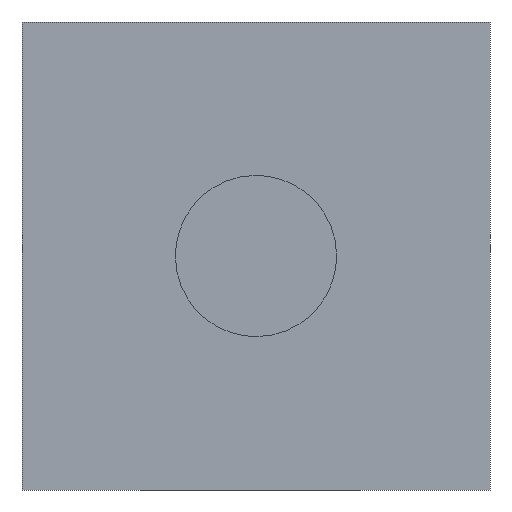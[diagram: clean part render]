
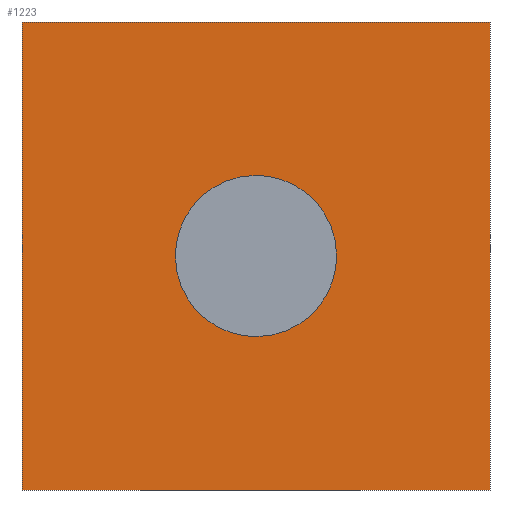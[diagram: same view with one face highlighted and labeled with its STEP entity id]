
A CAD part, left-side view. The second image highlights one B-rep face of the part: STEP entity #1223.
In plain terms, the highlighted planar face has unit normal (-1, 0, 0).
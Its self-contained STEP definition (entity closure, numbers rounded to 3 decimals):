
#63=AXIS2_PLACEMENT_3D('Circle Axis2P3D',#61,#62,$) ;
#97=AXIS2_PLACEMENT_3D('Circle Axis2P3D',#95,#96,$) ;
#1183=AXIS2_PLACEMENT_3D('Plane Axis2P3D',#1180,#1181,#1182) ;
#61=CARTESIAN_POINT('Axis2P3D Location',(0.,0.,0.)) ;
#65=CARTESIAN_POINT('Vertex',(0.,-1.814,-0.991)) ;
#67=CARTESIAN_POINT('Vertex',(0.,1.814,0.991)) ;
#95=CARTESIAN_POINT('Axis2P3D Location',(0.,0.,0.)) ;
#1180=CARTESIAN_POINT('Axis2P3D Location',(0.,0.,0.)) ;
#1185=CARTESIAN_POINT('Line Origine',(0.,6.,0.)) ;
#1189=CARTESIAN_POINT('Vertex',(0.,6.,6.)) ;
#1191=CARTESIAN_POINT('Vertex',(0.,6.,-6.)) ;
#1194=CARTESIAN_POINT('Line Origine',(0.,0.,-6.)) ;
#1198=CARTESIAN_POINT('Vertex',(0.,-6.,-6.)) ;
#1201=CARTESIAN_POINT('Line Origine',(0.,-6.,0.)) ;
#1205=CARTESIAN_POINT('Vertex',(0.,-6.,6.)) ;
#1208=CARTESIAN_POINT('Line Origine',(0.,0.,6.)) ;
#62=DIRECTION('Axis2P3D Direction',(1.,0.,-0.)) ;
#96=DIRECTION('Axis2P3D Direction',(1.,0.,-0.)) ;
#1181=DIRECTION('Axis2P3D Direction',(1.,0.,0.)) ;
#1182=DIRECTION('Axis2P3D XDirection',(0.,1.,0.)) ;
#1186=DIRECTION('Vector Direction',(0.,0.,-1.)) ;
#1195=DIRECTION('Vector Direction',(0.,1.,0.)) ;
#1202=DIRECTION('Vector Direction',(0.,0.,1.)) ;
#1209=DIRECTION('Vector Direction',(0.,-1.,0.)) ;
#1187=VECTOR('Line Direction',#1186,1.) ;
#1196=VECTOR('Line Direction',#1195,1.) ;
#1203=VECTOR('Line Direction',#1202,1.) ;
#1210=VECTOR('Line Direction',#1209,1.) ;
#1214=ORIENTED_EDGE('',*,*,#1193,.T.) ;
#1215=ORIENTED_EDGE('',*,*,#1200,.T.) ;
#1216=ORIENTED_EDGE('',*,*,#1207,.T.) ;
#1217=ORIENTED_EDGE('',*,*,#1212,.T.) ;
#1220=ORIENTED_EDGE('',*,*,#69,.T.) ;
#1221=ORIENTED_EDGE('',*,*,#99,.T.) ;
#1222=FACE_BOUND('',#1219,.T.) ;
#1223=ADVANCED_FACE('PartBody',(#1218,#1222),#1184,.F.) ;
#64=CIRCLE('generated circle',#63,2.067) ;
#98=CIRCLE('generated circle',#97,2.067) ;
#69=EDGE_CURVE('',#66,#68,#64,.T.) ;
#99=EDGE_CURVE('',#68,#66,#98,.T.) ;
#1193=EDGE_CURVE('',#1190,#1192,#1188,.T.) ;
#1200=EDGE_CURVE('',#1192,#1199,#1197,.F.) ;
#1207=EDGE_CURVE('',#1199,#1206,#1204,.T.) ;
#1212=EDGE_CURVE('',#1206,#1190,#1211,.F.) ;
#1213=EDGE_LOOP('',(#1214,#1215,#1216,#1217)) ;
#1219=EDGE_LOOP('',(#1220,#1221)) ;
#1218=FACE_OUTER_BOUND('',#1213,.T.) ;
#1188=LINE('Line',#1185,#1187) ;
#1197=LINE('Line',#1194,#1196) ;
#1204=LINE('Line',#1201,#1203) ;
#1211=LINE('Line',#1208,#1210) ;
#1184=PLANE('Plane',#1183) ;
#66=VERTEX_POINT('',#65) ;
#68=VERTEX_POINT('',#67) ;
#1190=VERTEX_POINT('',#1189) ;
#1192=VERTEX_POINT('',#1191) ;
#1199=VERTEX_POINT('',#1198) ;
#1206=VERTEX_POINT('',#1205) ;
